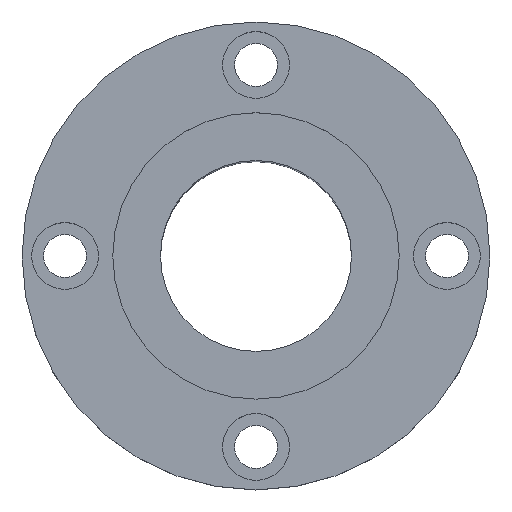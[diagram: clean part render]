
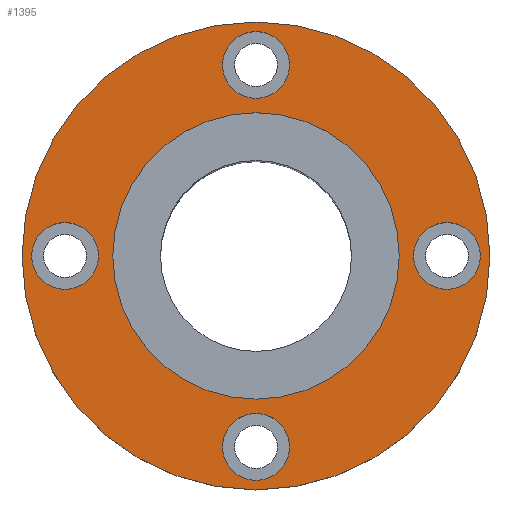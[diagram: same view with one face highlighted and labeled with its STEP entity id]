
A CAD part, top view. The second image highlights one B-rep face of the part: STEP entity #1395.
In plain terms, the highlighted planar face has unit normal (0, 0, 1).
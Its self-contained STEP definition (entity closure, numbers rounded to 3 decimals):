
#133=CARTESIAN_POINT('',(-30.0,0.,77.0));
#134=VERTEX_POINT('',#133);
#143=CARTESIAN_POINT('',(30.0,0.,77.0));
#144=VERTEX_POINT('',#143);
#145=CARTESIAN_POINT('',(0.0,0.0,77.0));
#146=DIRECTION('',(0.0,0.0,-1.0));
#147=DIRECTION('',(-1.0,0.0,0.0));
#148=AXIS2_PLACEMENT_3D('',#145,#146,#147);
#149=CIRCLE('',#148,30.0);
#150=EDGE_CURVE('',#144,#134,#149,.T.);
#217=CARTESIAN_POINT('',(-49.0,0.,77.0));
#218=VERTEX_POINT('',#217);
#227=CARTESIAN_POINT('',(49.0,0.,77.0));
#228=VERTEX_POINT('',#227);
#229=CARTESIAN_POINT('',(0.0,0.0,77.0));
#230=DIRECTION('',(0.0,0.0,-1.0));
#231=DIRECTION('',(-1.0,0.0,0.0));
#232=AXIS2_PLACEMENT_3D('',#229,#230,#231);
#233=CIRCLE('',#232,49.0);
#234=EDGE_CURVE('',#218,#228,#233,.T.);
#345=CARTESIAN_POINT('',(47.0,0.0,77.0));
#346=VERTEX_POINT('',#345);
#362=CARTESIAN_POINT('',(33.0,0.,77.0));
#363=VERTEX_POINT('',#362);
#370=CARTESIAN_POINT('',(40.0,0.0,77.0));
#371=DIRECTION('',(0.0,0.0,-1.0));
#372=DIRECTION('',(1.0,0.0,0.0));
#373=AXIS2_PLACEMENT_3D('',#370,#371,#372);
#374=CIRCLE('',#373,7.);
#375=EDGE_CURVE('',#346,#363,#374,.T.);
#471=CARTESIAN_POINT('',(0.,47.0,77.0));
#472=VERTEX_POINT('',#471);
#488=CARTESIAN_POINT('',(0.,33.0,77.0));
#489=VERTEX_POINT('',#488);
#496=CARTESIAN_POINT('',(0.,40.0,77.0));
#497=DIRECTION('',(0.0,0.0,-1.0));
#498=DIRECTION('',(0.0,1.0,0.0));
#499=AXIS2_PLACEMENT_3D('',#496,#497,#498);
#500=CIRCLE('',#499,7.);
#501=EDGE_CURVE('',#472,#489,#500,.T.);
#597=CARTESIAN_POINT('',(-47.0,0.,77.0));
#598=VERTEX_POINT('',#597);
#614=CARTESIAN_POINT('',(-33.0,0.,77.0));
#615=VERTEX_POINT('',#614);
#622=CARTESIAN_POINT('',(-40.0,0.,77.0));
#623=DIRECTION('',(0.0,0.0,-1.0));
#624=DIRECTION('',(-1.0,0.0,0.0));
#625=AXIS2_PLACEMENT_3D('',#622,#623,#624);
#626=CIRCLE('',#625,7.);
#627=EDGE_CURVE('',#598,#615,#626,.T.);
#723=CARTESIAN_POINT('',(0.,-47.0,77.0));
#724=VERTEX_POINT('',#723);
#740=CARTESIAN_POINT('',(0.,-33.0,77.0));
#741=VERTEX_POINT('',#740);
#748=CARTESIAN_POINT('',(0.,-40.0,77.0));
#749=DIRECTION('',(0.0,0.0,-1.0));
#750=DIRECTION('',(0.0,-1.0,0.0));
#751=AXIS2_PLACEMENT_3D('',#748,#749,#750);
#752=CIRCLE('',#751,7.);
#753=EDGE_CURVE('',#724,#741,#752,.T.);
#811=CARTESIAN_POINT('',(0.,-40.0,77.0));
#812=DIRECTION('',(0.0,0.0,-1.0));
#813=DIRECTION('',(0.0,-1.0,0.0));
#814=AXIS2_PLACEMENT_3D('',#811,#812,#813);
#815=CIRCLE('',#814,7.);
#816=EDGE_CURVE('',#741,#724,#815,.T.);
#915=CARTESIAN_POINT('',(-40.0,0.,77.0));
#916=DIRECTION('',(0.0,0.0,-1.0));
#917=DIRECTION('',(-1.0,0.0,0.0));
#918=AXIS2_PLACEMENT_3D('',#915,#916,#917);
#919=CIRCLE('',#918,7.);
#920=EDGE_CURVE('',#615,#598,#919,.T.);
#1019=CARTESIAN_POINT('',(0.,40.0,77.0));
#1020=DIRECTION('',(0.0,0.0,-1.0));
#1021=DIRECTION('',(0.0,1.0,0.0));
#1022=AXIS2_PLACEMENT_3D('',#1019,#1020,#1021);
#1023=CIRCLE('',#1022,7.);
#1024=EDGE_CURVE('',#489,#472,#1023,.T.);
#1123=CARTESIAN_POINT('',(40.0,0.0,77.0));
#1124=DIRECTION('',(0.0,0.0,-1.0));
#1125=DIRECTION('',(1.0,0.0,0.0));
#1126=AXIS2_PLACEMENT_3D('',#1123,#1124,#1125);
#1127=CIRCLE('',#1126,7.);
#1128=EDGE_CURVE('',#363,#346,#1127,.T.);
#1188=CARTESIAN_POINT('',(0.0,0.0,77.0));
#1189=DIRECTION('',(0.0,0.0,-1.0));
#1190=DIRECTION('',(-1.0,0.0,0.0));
#1191=AXIS2_PLACEMENT_3D('',#1188,#1189,#1190);
#1192=CIRCLE('',#1191,49.0);
#1193=EDGE_CURVE('',#228,#218,#1192,.T.);
#1306=CARTESIAN_POINT('',(0.0,0.0,77.0));
#1307=DIRECTION('',(0.0,0.0,-1.0));
#1308=DIRECTION('',(-1.0,0.0,0.0));
#1309=AXIS2_PLACEMENT_3D('',#1306,#1307,#1308);
#1310=CIRCLE('',#1309,30.0);
#1311=EDGE_CURVE('',#134,#144,#1310,.T.);
#1366=CARTESIAN_POINT('',(0.0,0.0,77.0));
#1367=DIRECTION('',(0.0,0.0,-1.0));
#1368=DIRECTION('',(-1.0,0.0,0.0));
#1369=AXIS2_PLACEMENT_3D('',#1366,#1367,#1368);
#1370=PLANE('',#1369);
#1371=ORIENTED_EDGE('',*,*,#1193,.F.);
#1372=ORIENTED_EDGE('',*,*,#234,.F.);
#1373=EDGE_LOOP('',(#1371,#1372));
#1374=FACE_OUTER_BOUND('',#1373,.T.);
#1375=ORIENTED_EDGE('',*,*,#753,.T.);
#1376=ORIENTED_EDGE('',*,*,#816,.T.);
#1377=EDGE_LOOP('',(#1375,#1376));
#1378=FACE_BOUND('',#1377,.T.);
#1379=ORIENTED_EDGE('',*,*,#627,.T.);
#1380=ORIENTED_EDGE('',*,*,#920,.T.);
#1381=EDGE_LOOP('',(#1379,#1380));
#1382=FACE_BOUND('',#1381,.T.);
#1383=ORIENTED_EDGE('',*,*,#501,.T.);
#1384=ORIENTED_EDGE('',*,*,#1024,.T.);
#1385=EDGE_LOOP('',(#1383,#1384));
#1386=FACE_BOUND('',#1385,.T.);
#1387=ORIENTED_EDGE('',*,*,#375,.T.);
#1388=ORIENTED_EDGE('',*,*,#1128,.T.);
#1389=EDGE_LOOP('',(#1387,#1388));
#1390=FACE_BOUND('',#1389,.T.);
#1391=ORIENTED_EDGE('',*,*,#150,.T.);
#1392=ORIENTED_EDGE('',*,*,#1311,.T.);
#1393=EDGE_LOOP('',(#1391,#1392));
#1394=FACE_BOUND('',#1393,.T.);
#1395=ADVANCED_FACE('',(#1374,#1378,#1382,#1386,#1390,#1394),#1370,.F.);
